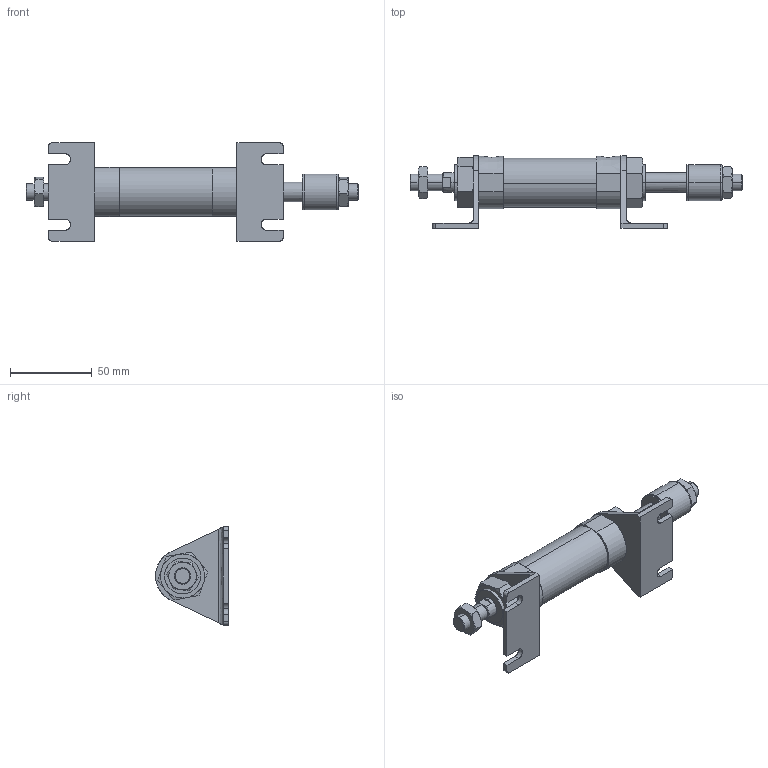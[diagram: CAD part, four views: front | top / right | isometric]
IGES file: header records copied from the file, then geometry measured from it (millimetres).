
Start section: SolidWorks IGES file using analytic representation for surfaces
Global section: file name: C:\Users\Toshiba\Desktop\JGA7-25-25-L.IGS; native system: SolidWorks 2014; preprocessor: SolidWorks 2014; author: Toshiba; date: 160420.095532; units: millimetre
Bounding box: 203 x 44.5 x 60 mm (x, y, z)
Surface area: 41037.9 mm2 (no closed solid volume)
Topology: 0 solids, 0 shells, 223 faces, 3740 edges, 3736 vertices
Faces by surface type: bspline 145, revolution 78
